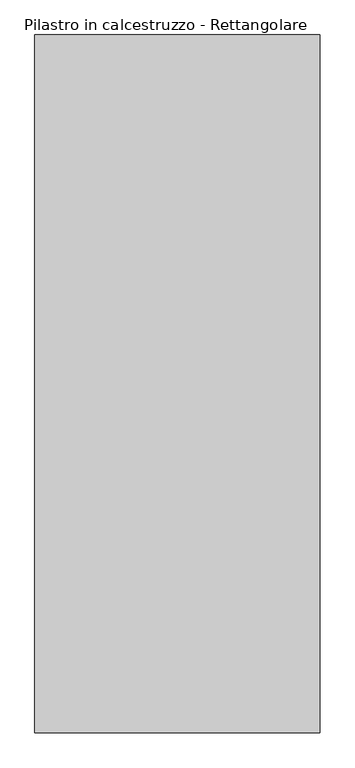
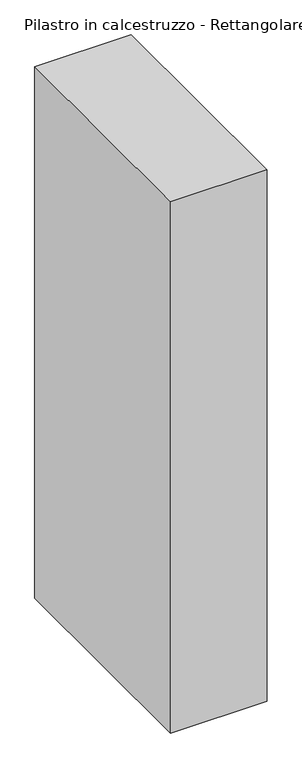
"""IFC4 building model written with IfcOpenShell, lengths in millimetres: column geometry, Pilastro in calcestruzzo - Rettangolare : 72*176."""

from ifc_helpers import new_model, si_unit, origin, origin_with_axes, place, context, project, spatial, polyline, outline, extrude, source, transform, mapped, element, save


def pilastro_in_calcestruzzo_rettangolare_504901c2(model_context):
    return source(origin(), model_context, "Body", "SweptSolid", [
        extrude(outline(polyline([(360.0, 880.0), (360.0, -880.0), (-360.0, -880.0), (-360.0, 880.0), (360.0, 880.0)])), origin_with_axes(), (0.0, 0.0, 1.0), 4200.0),
    ])


if __name__ == "__main__":
    model = new_model("IFC4")
    model_context = context("Model", 3, world=origin())
    ifc_project = project(units=[si_unit("LENGTHUNIT", "METRE", prefix="MILLI")], contexts=[model_context])
    site = spatial("IfcSite", under=ifc_project)
    building = spatial("IfcBuilding", under=site)
    placement = place(None, origin())
    pilastro_in_calcestruzzo_rettangolare_shape = pilastro_in_calcestruzzo_rettangolare_504901c2(model_context)
    element("IfcColumn", 1, ObjectType="Pilastro in calcestruzzo - Rettangolare : 72*176", at=placement, inside=building, context=model_context, shape_type="MappedRepresentation", body=[
        mapped(pilastro_in_calcestruzzo_rettangolare_shape, transform((0.0, 0.0, 0.0), x_axis=(1.0, 0.0, 0.0), y_axis=(0.0, 1.0, 0.0), z_axis=(0.0, 0.0, 1.0))),
    ])
    save(model, "model.ifc")
